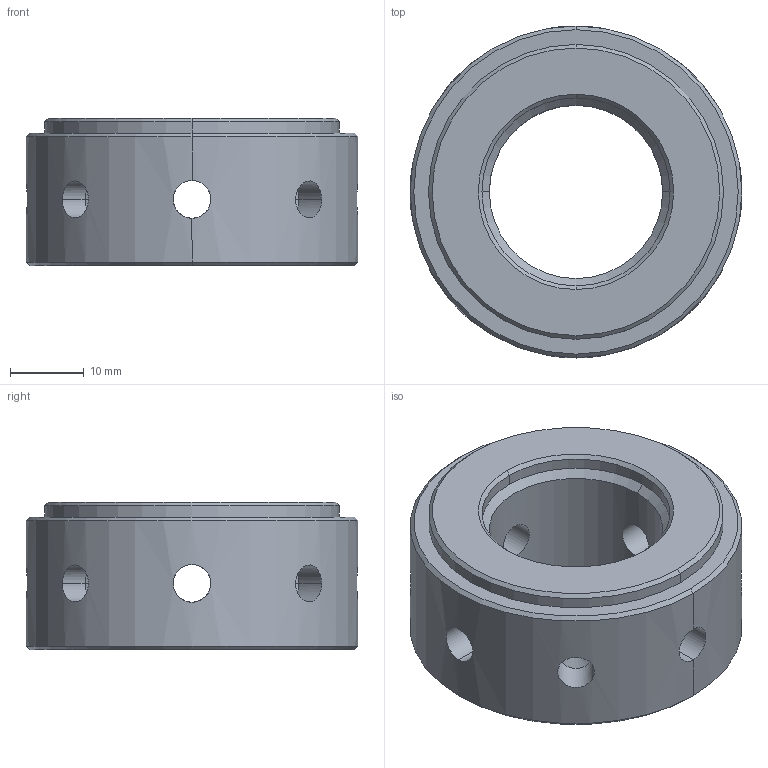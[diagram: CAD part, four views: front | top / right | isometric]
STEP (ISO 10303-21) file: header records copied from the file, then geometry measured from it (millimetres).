
FILE_DESCRIPTION (( 'STEP AP203' ), '1' );
FILE_NAME ('WBK25.STEP', '2013-01-07T05:09:32', ( '' ), ( '' ), 'SwSTEP 2.0', 'SolidWorks 2012', '' );
FILE_SCHEMA (( 'CONFIG_CONTROL_DESIGN' ));
Length unit declared in the file: millimetre
Products named in the file (1): WBK25
Bounding box: 45 x 45 x 20 mm (x, y, z)
Volume: 20598.6 mm3; surface area: 7397.3 mm2
Topology: 1 solids, 1 shells, 63 faces, 156 edges, 84 vertices
Faces by surface type: cylinder 32, cone 28, plane 3
Entity records: 2515 total; most frequent: CARTESIAN_POINT 1032, DIRECTION 296, ORIENTED_EDGE 280, EDGE_CURVE 140, AXIS2_PLACEMENT_3D 116, VERTEX_POINT 84, EDGE_LOOP 78, VECTOR 64
